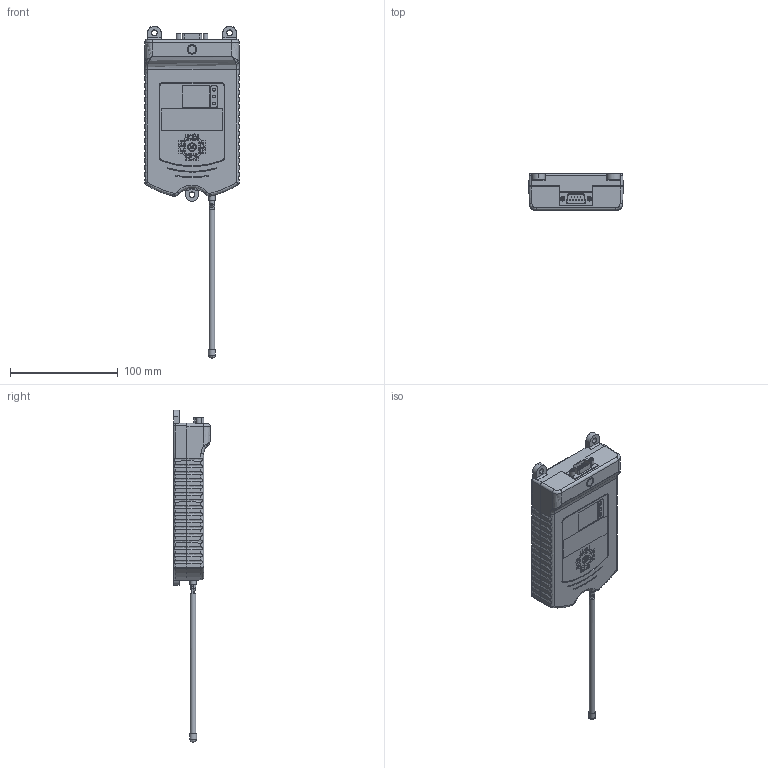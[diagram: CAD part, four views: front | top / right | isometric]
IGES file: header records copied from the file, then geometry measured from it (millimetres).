
Global section: file name: No Iges File Name specified; native system: AutoDesk Inventor R6.0; preprocessor: AutoDesk Inventor Iges Exporter R6.0; author: No Author specified; organization: No Organization specified; date: 20080102.163926; units: inch
Bounding box: 87.73 x 34.24 x 308.66 mm (x, y, z)
Surface area: 128340.2 mm2 (no closed solid volume)
Topology: 0 solids, 0 shells, 1788 faces, 9382 edges, 9346 vertices
Faces by surface type: revolution 1027, plane 676, bspline 85
